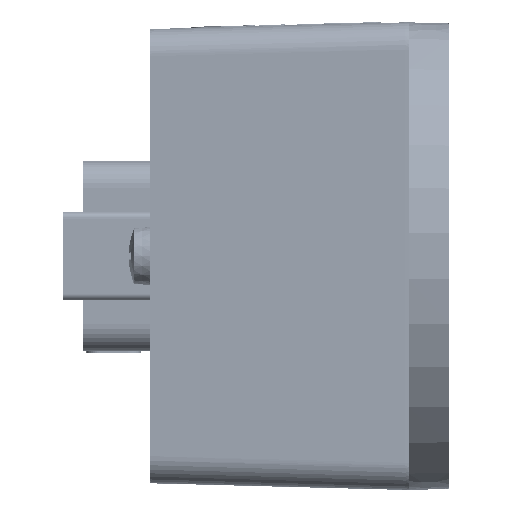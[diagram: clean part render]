
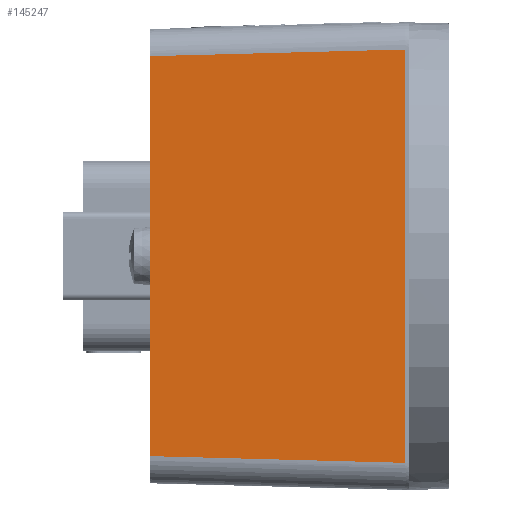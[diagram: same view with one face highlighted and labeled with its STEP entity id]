
A CAD part, left-side view. The second image highlights one B-rep face of the part: STEP entity #145247.
In plain terms, the highlighted planar face has unit normal (-1, 0.026, 0).
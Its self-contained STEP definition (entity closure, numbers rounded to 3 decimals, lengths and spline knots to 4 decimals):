
#18137=LINE('',#248337,#32344);
#18168=LINE('',#248666,#32375);
#18169=LINE('',#248669,#32376);
#18170=LINE('',#248670,#32377);
#32344=VECTOR('',#187131,0.3937);
#32375=VECTOR('',#187298,0.3937);
#32376=VECTOR('',#187301,0.3937);
#32377=VECTOR('',#187302,0.3937);
#42033=FACE_OUTER_BOUND('',#50388,.T.);
#50388=EDGE_LOOP('',(#124880,#124881,#124882,#124883));
#66318=VERTEX_POINT('',#248334);
#66319=VERTEX_POINT('',#248336);
#66370=VERTEX_POINT('',#248662);
#66372=VERTEX_POINT('',#248668);
#85824=EDGE_CURVE('',#66318,#66319,#18137,.T.);
#85912=EDGE_CURVE('',#66319,#66370,#18168,.T.);
#85913=EDGE_CURVE('',#66372,#66318,#18169,.T.);
#85914=EDGE_CURVE('',#66372,#66370,#18170,.T.);
#124880=ORIENTED_EDGE('',*,*,#85912,.F.);
#124881=ORIENTED_EDGE('',*,*,#85824,.F.);
#124882=ORIENTED_EDGE('',*,*,#85913,.F.);
#124883=ORIENTED_EDGE('',*,*,#85914,.T.);
#130207=PLANE('',#154671);
#145247=ADVANCED_FACE('',(#42033),#130207,.T.);
#154671=AXIS2_PLACEMENT_3D('',#248667,#187299,#187300);
#187131=DIRECTION('',(0.,0.,-1.));
#187298=DIRECTION('',(0.026,0.999,0.026));
#187299=DIRECTION('center_axis',(-1.,0.026,
0.));
#187300=DIRECTION('ref_axis',(0.,0.,1.));
#187301=DIRECTION('',(-0.026,-0.999,0.026));
#187302=DIRECTION('',(0.,0.,-1.));
#248334=CARTESIAN_POINT('',(-1.8,0.,0.95));
#248336=CARTESIAN_POINT('',(-1.8,0.,-0.95));
#248337=CARTESIAN_POINT('',(-1.8,0.,1.075));
#248662=CARTESIAN_POINT('',(-1.7692,1.175,-0.9193));
#248666=CARTESIAN_POINT('',(-1.7993,0.0248,-0.9494));
#248667=CARTESIAN_POINT('Origin',(-1.8,0.,1.075));
#248668=CARTESIAN_POINT('',(-1.7692,1.175,0.9193));
#248669=CARTESIAN_POINT('',(-1.7989,0.0438,0.9489));
#248670=CARTESIAN_POINT('',(-1.7692,1.175,1.075));
